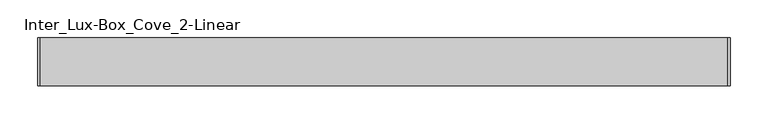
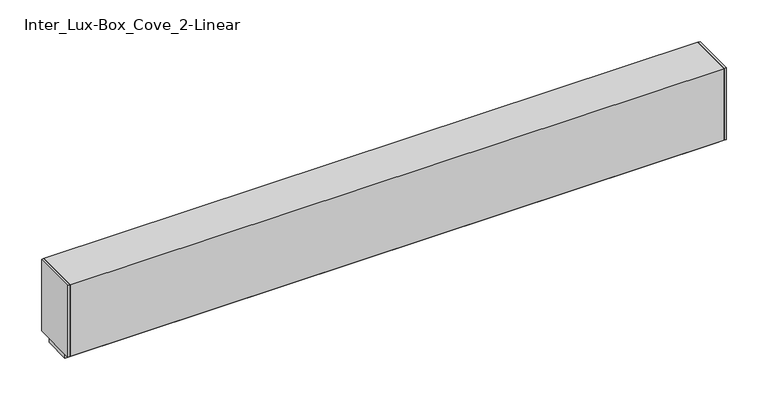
"""IFC4 building model written with IfcOpenShell, lengths in millimetres: light fixture geometry, Inter_Lux-Box_Cove_2-Linear : WG-BC2-36."""

from ifc_helpers import new_model, si_unit, frame, origin, origin_with_axes, place, context, project, spatial, polyline, outline, extrude, source, transform, mapped, element, save


def inter_lux_box_cove_2_linear_36a48e66(model_context):
    return source(origin(), model_context, "Body", "SweptSolid", [
        extrude(outline(polyline([(28.5291428, 52.399339), (27.1145076, 53.3286003), (22.7583024, 99.2666021), (24.0177286, 99.9740852), (28.5291428, 52.399339)])), frame((-454.025, 0.0, 0.0), z_axis=(1.0, 0.0, 0.0), x_axis=(0.0, 1.0, 0.0)), (0.0, 0.0, 1.0), 908.05),
        extrude(outline(polyline([(454.025, 19.05), (454.025, -19.05), (-454.025, -19.05), (-454.025, 19.05), (454.025, 19.05)])), origin_with_axes(), (0.0, 0.0, 1.0), 10.4825619),
        extrude(outline(polyline([(457.2, 31.75), (457.2, -31.75), (454.025, -31.75), (454.025, 31.75), (457.2, 31.75)])), frame((0.0, 0.0, 10.31875), z_axis=(0.0, 0.0, 1.0), x_axis=(1.0, 0.0, 0.0)), (0.0, 0.0, 1.0), 105.3520075),
        extrude(outline(polyline([(29.52626, 51.7443416), (31.75, 13.49375), (30.1583865, 13.49375), (27.929581, 51.1979954), (8.296285, 64.0949328), (8.296285, 76.1922878), (12.3594897, 95.308163), (27.0595865, 103.5654863), (27.0595865, 112.4957575), (28.5835865, 112.4957575), (28.5835865, 102.5389575), (13.8539227, 94.2645637), (9.947285, 75.8852783), (9.947285, 64.605596), (29.52626, 51.7443416)])), frame((-454.025, 0.0, 0.0), z_axis=(1.0, 0.0, 0.0), x_axis=(0.0, 1.0, 0.0)), (0.0, 0.0, 1.0), 908.05),
        extrude(outline(polyline([(-31.75, 115.6707575), (31.75, 115.6707575), (31.75, 112.4957575), (27.0595865, 112.4957575), (27.0595865, 103.8140045), (23.8845865, 103.8140045), (23.8845865, 112.4957575), (-28.575, 112.4957575), (-28.575, 13.49375), (31.75, 13.49375), (31.75, 10.31875), (-31.75, 10.31875), (-31.75, 115.6707575)])), frame((-454.025, 0.0, 0.0), z_axis=(1.0, 0.0, 0.0), x_axis=(0.0, 1.0, 0.0)), (0.0, 0.0, 1.0), 908.05),
        extrude(outline(polyline([(-457.2, -31.75), (-457.2, 31.75), (-454.025, 31.75), (-454.025, -31.75), (-457.2, -31.75)])), frame((0.0, 0.0, 10.31875), z_axis=(0.0, 0.0, 1.0), x_axis=(1.0, 0.0, 0.0)), (0.0, 0.0, 1.0), 105.3520075),
    ])


if __name__ == "__main__":
    model = new_model("IFC4")
    model_context = context("Model", 3, world=origin())
    ifc_project = project(units=[si_unit("LENGTHUNIT", "METRE", prefix="MILLI")], contexts=[model_context])
    site = spatial("IfcSite", under=ifc_project)
    building = spatial("IfcBuilding", under=site)
    placement = place(None, origin())
    inter_lux_box_cove_2_linear_shape = inter_lux_box_cove_2_linear_36a48e66(model_context)
    element("IfcLightFixture", 1, ObjectType="Inter_Lux-Box_Cove_2-Linear : WG-BC2-36", at=placement, inside=building, context=model_context, shape_type="MappedRepresentation", body=[
        mapped(inter_lux_box_cove_2_linear_shape, transform((0.0, 0.0, 0.0), x_axis=(1.0, 0.0, 0.0), y_axis=(0.0, 1.0, 0.0), z_axis=(0.0, 0.0, 1.0))),
    ])
    save(model, "model.ifc")
